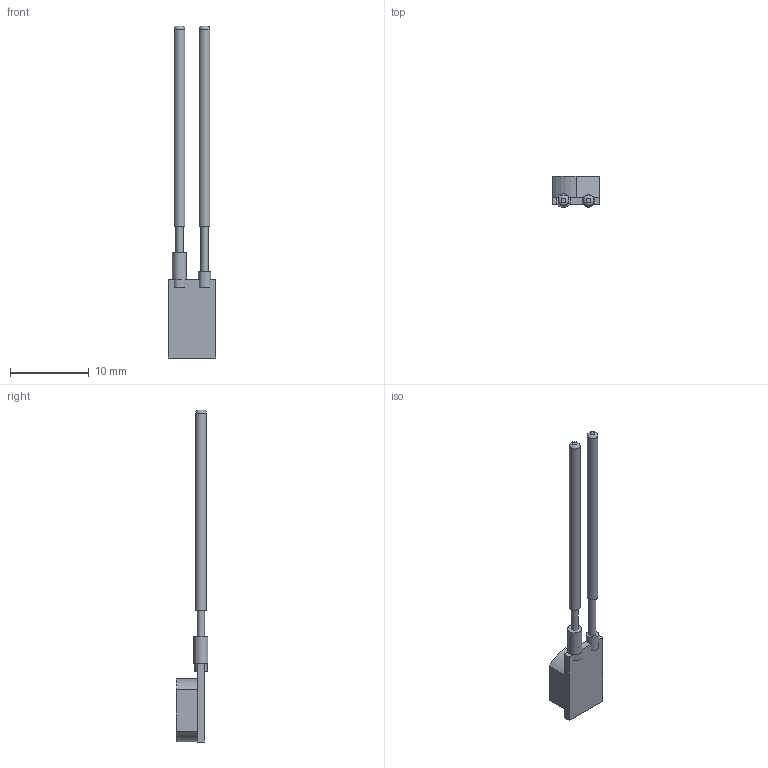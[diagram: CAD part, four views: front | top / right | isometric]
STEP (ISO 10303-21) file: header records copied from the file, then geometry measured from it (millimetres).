
FILE_DESCRIPTION(/* description */ (''),/* implementation_level */ '2;1');
FILE_NAME(/* name */ 'C:/Users/sorto/Downloads/FINN_VERT_CLR.step',/* time_stamp */ '2020-10-16T10:40:32-05:00',/* author */ (''),/* organization */ (''),/* preprocessor_version */ 'ST-DEVELOPER v18.1',/* originating_system */ 'Autodesk Translation Framework v9.3.0.1241',/* authorisation */ '');
FILE_SCHEMA (('AUTOMOTIVE_DESIGN { 1 0 10303 214 3 1 1 }'));
Length unit declared in the file: inch
Products named in the file (1): FINN
Bounding box: 6 x 4.04 x 42.11 mm (x, y, z)
Volume: 259.4 mm3; surface area: 609.2 mm2
Topology: 5 solids, 5 shells, 45 faces, 84 edges, 54 vertices
Faces by surface type: plane 32, cylinder 11, bspline 2
Full cylindrical faces by diameter (mm): 0.914 x2, 1.367 x2, 1.575 x2, 1.778 x1
Entity records: 1213 total; most frequent: CARTESIAN_POINT 236, DIRECTION 198, ORIENTED_EDGE 168, EDGE_CURVE 84, AXIS2_PLACEMENT_3D 70, LINE 58, VECTOR 58, VERTEX_POINT 54
